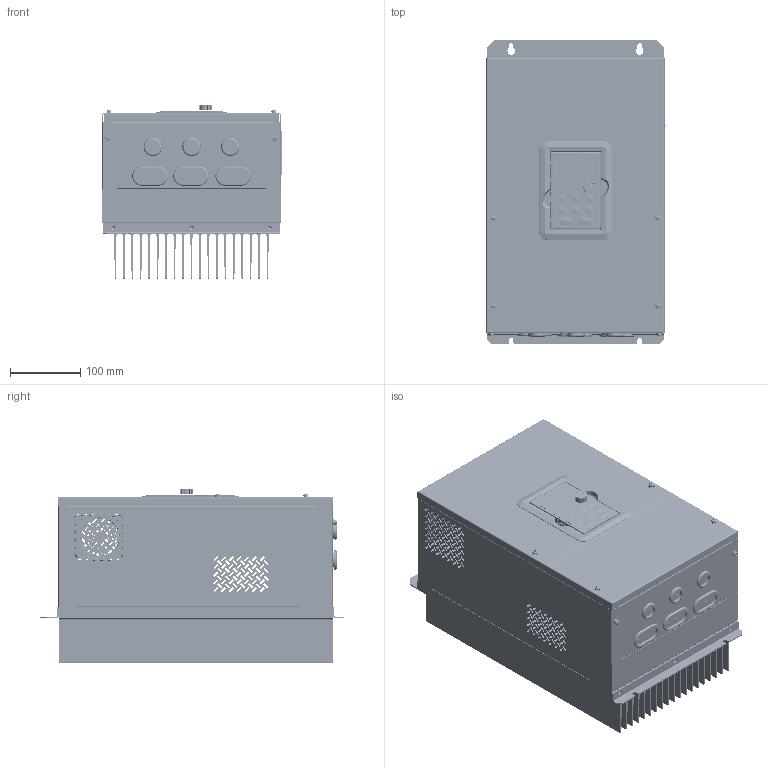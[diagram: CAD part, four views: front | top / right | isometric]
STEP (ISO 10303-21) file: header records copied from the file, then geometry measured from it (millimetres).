
FILE_DESCRIPTION((''),'2;1');
FILE_NAME('GD350-2-030G-4_ASM_ASM','2024-07-19T10:45:51',('Administrator'),(''),'CREO PARAMETRIC BY PTC INC, 2019080','CREO PARAMETRIC BY PTC INC, 2019080','');
FILE_SCHEMA(('CONFIG_CONTROL_DESIGN'));
Products named in the file (73): PCB_2460_ZQ_1-6_LAYOUT-1-7__3; TERMINAL_01__1; TERMINAL_01_SCREW__1; TERMINAL_01_METAL_02__1; TERMINAL_01_METAL_01__1; TERMINAL_01_NUT__1; TERMINAL_01_SCREW__ASM_1_ASM; TERMINAL_01__ASM_1_ASM; PCB_TERMINAL_01__1_1; PCB_TERMINAL_01__1_2; PCB_TERMINAL_01__1_ASM; PCB_2460_ZQ_1-6_LAYOUT-1-7__ASM_ASM; PCB-ASM_30KW_ASM_2_ASM; GD300-2-030G-ES_ASM_2_ASM; CHE200-030G-4_CABLING_1; DRIVE-30G_ASM_2_ASM; 80310233_1; S-M4-ZC_1; YMD-55-0D8-SL_1; 80310233_ASM_1_ASM; 80382132_1; 61210124_ASM_2_ASM; 80382110_1; 80382110_ASM_2_ASM; 803810498_1; S-M5-ZC_1; SO-M4-10-ZC_1; 803810498_ASM_1_ASM; 803810498SY_1; 80381905_1; SO-3D5M3-6-ZC_1; 80381905_ASM_1_ASM; GB9074_8_M4X10_1; 86052319_1; 86052319_ASM_1_ASM; 86052319SY_1; 80480771_1; 80480771_ASM_1_ASM; 86052399_1; 86052399SY_1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
Assembly tree (133 placements, depth 9):
  GD350-2-030G-4_ASM_ASM
    GD350-2-030G-4_ASM_2_ASM
      DRIVE-30G_ASM_2_ASM
        GD300-2-030G-ES_ASM_2_ASM
          PCB-ASM_30KW_ASM_2_ASM
            PCB_2460_ZQ_1-6_LAYOUT-1-7__ASM_ASM
              PCB_2460_ZQ_1-6_LAYOUT-1-7__3
              TERMINAL_01__ASM_1_ASM
                TERMINAL_01__1
                TERMINAL_01_SCREW__ASM_1_ASM  x9
                  TERMINAL_01_SCREW__1
                  TERMINAL_01_METAL_02__1
                  TERMINAL_01_METAL_01__1
                  TERMINAL_01_NUT__1
              PCB_TERMINAL_01__1_ASM  x2
                PCB_TERMINAL_01__1_1
                PCB_TERMINAL_01__1_2
        CHE200-030G-4_CABLING_1
      41001381_ASM_2_ASM
        61210124_ASM_2_ASM
          80310233_ASM_1_ASM
            80310233_1
            S-M4-ZC_1  x8
            YMD-55-0D8-SL_1  x3
          80382132_1
        80382110_ASM_2_ASM
          80382110_1
          S-M4-ZC_1  x2
        803810498_ASM_1_ASM
          803810498_1
          S-M5-ZC_1  x2
          SO-M4-10-ZC_1  x4
        803810498SY_1
        80381905_ASM_1_ASM
          80381905_1
          SO-3D5M3-6-ZC_1  x7
        GB9074_8_M4X10_1  x14
        86052319_ASM_1_ASM
          86052319_1
          YMD-55-0D8-SL_1  x2
        86052319SY_1
        80480771_ASM_1_ASM
          80480771_1
          YMD-55-0D8-SL_1  x2
        86052399_ASM_1_ASM
          86052399_1
          YMD-55-0D8-SL_1  x2
          86052399SY_1
        GB819_1_M4X8_1  x2
      40840173_ASM_2_ASM
        78440528_1
        78440692_1
      80780028_1
      FAN-CONN_ASM_2
      SCREW-30KW_ASM_2_ASM
        GB9074_13_M5X16_ZC_1  x2
        GB819_1_M4X8_1  x2
      LF09-BZJ-FTH-3-01_1_ASM
        LF09-BZJ-FTH-3-01_1_1
        LF09-BZJ-FTH-3-01_1_2
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Bounding box: 254.5 x 430.2 x 247.3 mm (x, y, z)
Volume: 3978558.7 mm3; surface area: 2662519.4 mm2
Topology: 130 solids, 184 shells, 14587 faces, 39959 edges, 26037 vertices
Faces by surface type: plane 10583, cylinder 2903, torus 442, cone 397, bspline 150, sphere 88, extrusion 24
Entity records: 291241 total; most frequent: CARTESIAN_POINT 62455, ORIENTED_EDGE 47926, DIRECTION 46424, EDGE_CURVE 24035, VECTOR 17282, LINE 17258, VERTEX_POINT 15685, AXIS2_PLACEMENT_3D 14571
